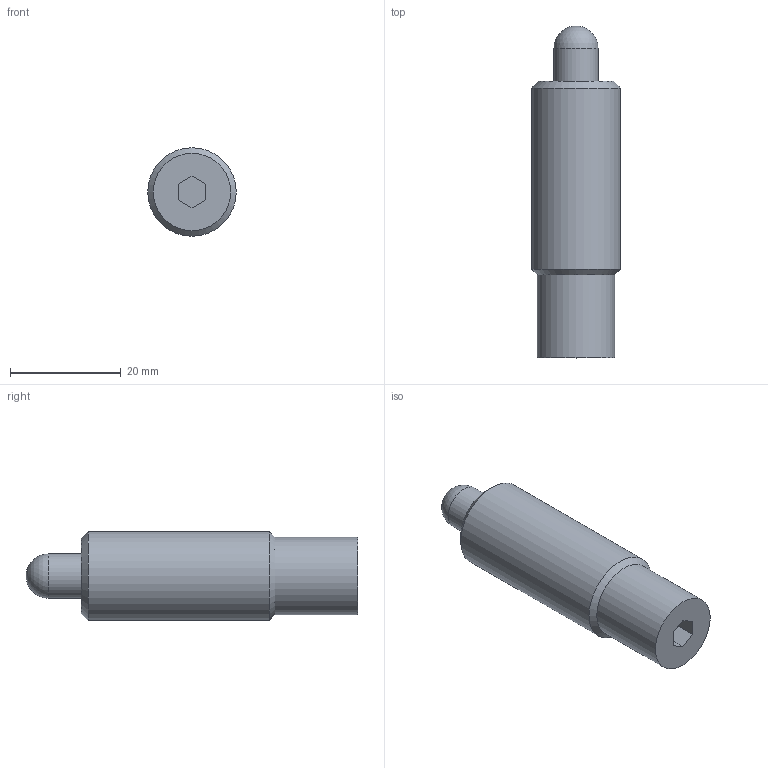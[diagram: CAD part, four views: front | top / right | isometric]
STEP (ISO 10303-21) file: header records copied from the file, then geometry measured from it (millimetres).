
FILE_DESCRIPTION( ( 'STEP AP203' ), '1' );
FILE_NAME( 'p:/temp/worker_10/temp/app_46_0201907041159037544347210e898ce_000000_00_00_000000/format_4/M314-04-004.stp', '2019-07-04T09:59:06', ( '' ), ( '' ), ' ', 'PARTsolutions', ' ' );
FILE_SCHEMA( ( 'CONFIG_CONTROL_DESIGN' ) );
Length unit declared in the file: millimetre
Products named in the file (1): _M314-04-004
Bounding box: 16 x 60 x 16 mm (x, y, z)
Volume: 9613.6 mm3; surface area: 3040 mm2
Topology: 1 solids, 1 shells, 15 faces, 33 edges, 21 vertices
Faces by surface type: plane 9, cylinder 3, cone 2, sphere 1
Full cylindrical faces by diameter (mm): 8 x1, 14 x1, 16 x1
Entity records: 410 total; most frequent: DIRECTION 64, CARTESIAN_POINT 61, ORIENTED_EDGE 50, EDGE_CURVE 25, AXIS2_PLACEMENT_3D 23, EDGE_LOOP 22, VERTEX_POINT 20, FACE_OUTER_BOUND 18
